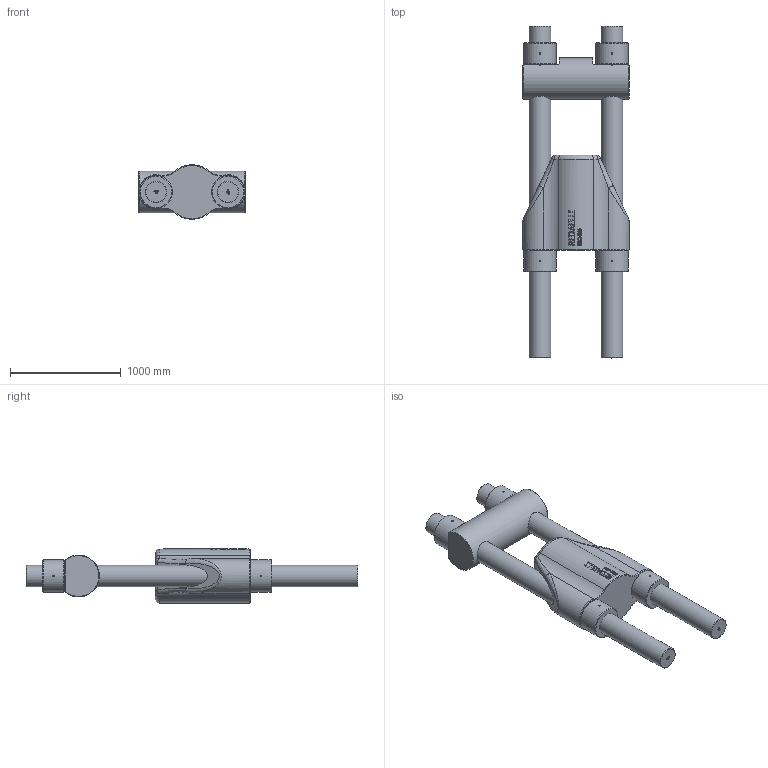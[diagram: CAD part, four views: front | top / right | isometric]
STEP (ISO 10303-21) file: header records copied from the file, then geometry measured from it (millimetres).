
FILE_DESCRIPTION(/* description */ (''),/* implementation_level */ '2;1');
FILE_NAME(/* name */ 'D:\Clienti\Redaelli (inventor)\BRC\STEP\Arrangemet\BRC156 72 111 0.stp',/* time_stamp */ '2021-05-08T08:50:56+02:00',/* author */ ('fabri'),/* organization */ (''),/* preprocessor_version */ 'ST-DEVELOPER v16.13',/* originating_system */ 'Autodesk Inventor 2018',/* authorisation */ '');
FILE_SCHEMA (('AUTOMOTIVE_DESIGN { 1 0 10303 214 3 1 1 }'));
Length unit declared in the file: millimetre
Products named in the file (5): BRC020 72 111 0; BRC020 71 112 0; BRC020 71 114 0_ROD; BRC020 71 113 0; BRC020 71 114 0_NUT
Assembly tree (8 placements, depth 2):
  BRC020 72 111 0
    BRC020 71 112 0
    BRC020 71 114 0_ROD  x2
    BRC020 71 113 0
    BRC020 71 114 0_NUT  x4
Bounding box: 962 x 3000 x 489.05 mm (x, y, z)
Volume: 490448329.5 mm3; surface area: 9727241.3 mm2
Topology: 8 solids, 8 shells, 1572 faces, 4262 edges, 2830 vertices
Faces by surface type: plane 766, bspline 683, cylinder 69, cone 30, torus 20, sphere 4
Full cylindrical faces by diameter (mm): 15 x16, 183.505 x4, 195 x2, 203 x4, 293 x4, 378 x1
Entity records: 31850 total; most frequent: CARTESIAN_POINT 12456, ORIENTED_EDGE 4610, DIRECTION 2755, EDGE_CURVE 2305, VERTEX_POINT 1536, LINE 1305, VECTOR 1305, EDGE_LOOP 969
